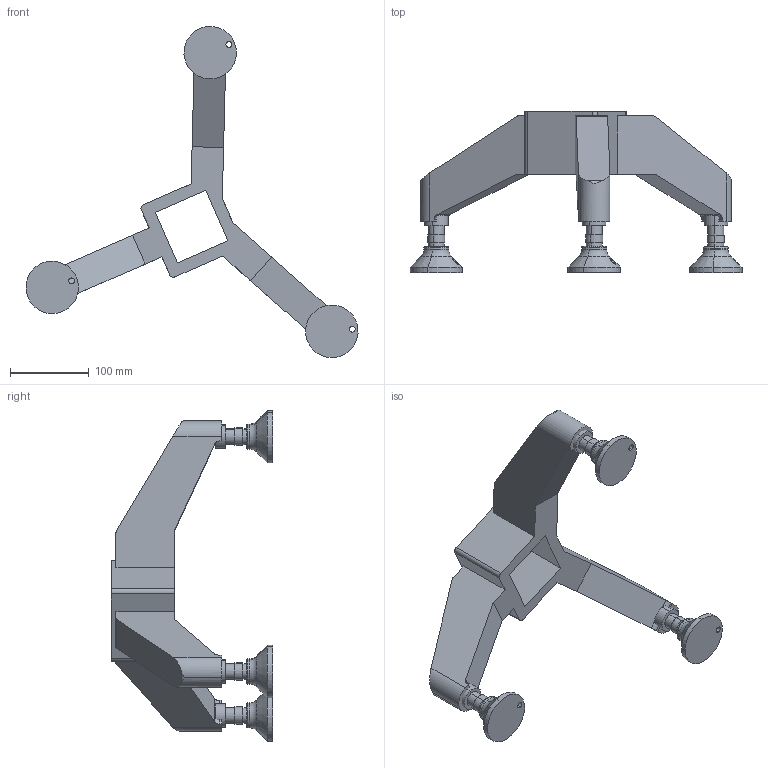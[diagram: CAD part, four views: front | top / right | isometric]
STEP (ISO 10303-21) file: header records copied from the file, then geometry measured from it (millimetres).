
FILE_DESCRIPTION (( 'STEP AP214' ), '1' );
FILE_NAME ('FEFG 70T.step', '2017-04-05T08:04:38', ( '' ), ( '' ), 'SwSTEP 2.0', 'SolidWorks 2015', '' );
FILE_SCHEMA (( 'AUTOMOTIVE_DESIGN' ));
Length unit declared in the file: millimetre
Products named in the file (1): FEFG 70T
Bounding box: 421.52 x 205 x 420.41 mm (x, y, z)
Volume: 2041428.6 mm3; surface area: 219305.1 mm2
Topology: 4 solids, 4 shells, 126 faces, 296 edges, 190 vertices
Faces by surface type: cylinder 59, plane 49, torus 12, cone 6
Entity records: 3962 total; most frequent: CARTESIAN_POINT 910, DIRECTION 658, ORIENTED_EDGE 592, EDGE_CURVE 296, AXIS2_PLACEMENT_3D 253, VERTEX_POINT 190, LINE 152, VECTOR 152
